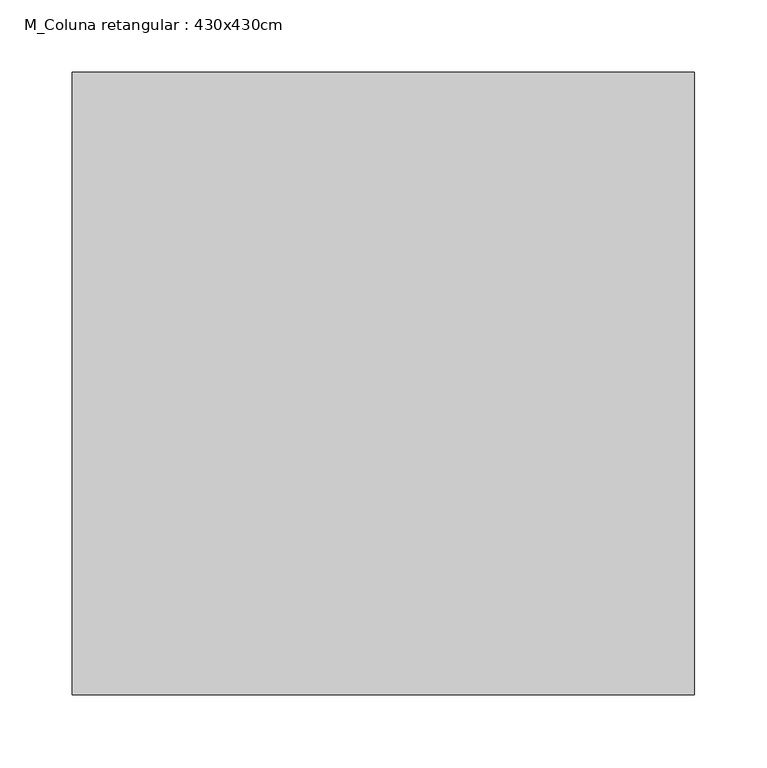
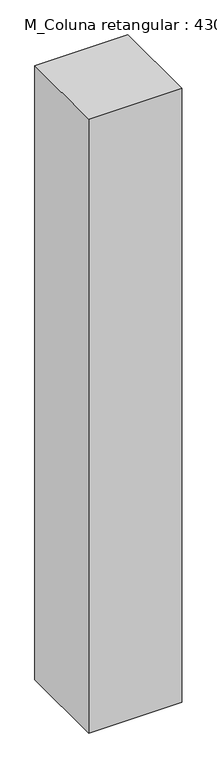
"""IFC4 building model written with IfcOpenShell, lengths in millimetres: column geometry, M_Coluna retangular : 430x430cm."""

from ifc_helpers import new_model, si_unit, origin, origin_with_axes, place, context, project, spatial, polyline, outline, extrude, source, transform, mapped, element, save


def m_coluna_retangular_430x430cm_ec2f5c71(model_context):
    return source(origin(), model_context, "Body", "SweptSolid", [
        extrude(outline(polyline([(215.0, 215.0), (215.0, -215.0), (-215.0, -215.0), (-215.0, 215.0), (215.0, 215.0)])), origin_with_axes(), (0.0, 0.0, 1.0), 3000.0),
    ])


if __name__ == "__main__":
    model = new_model("IFC4")
    model_context = context("Model", 3, world=origin())
    ifc_project = project(units=[si_unit("LENGTHUNIT", "METRE", prefix="MILLI")], contexts=[model_context])
    site = spatial("IfcSite", under=ifc_project)
    building = spatial("IfcBuilding", under=site)
    placement = place(None, origin())
    m_coluna_retangular_430x430cm_shape = m_coluna_retangular_430x430cm_ec2f5c71(model_context)
    element("IfcColumn", 1, ObjectType="M_Coluna retangular : 430x430cm", at=placement, inside=building, context=model_context, shape_type="MappedRepresentation", body=[
        mapped(m_coluna_retangular_430x430cm_shape, transform((0.0, 0.0, 0.0), x_axis=(1.0, 0.0, 0.0), y_axis=(0.0, 1.0, 0.0), z_axis=(0.0, 0.0, 1.0))),
    ])
    save(model, "model.ifc")
